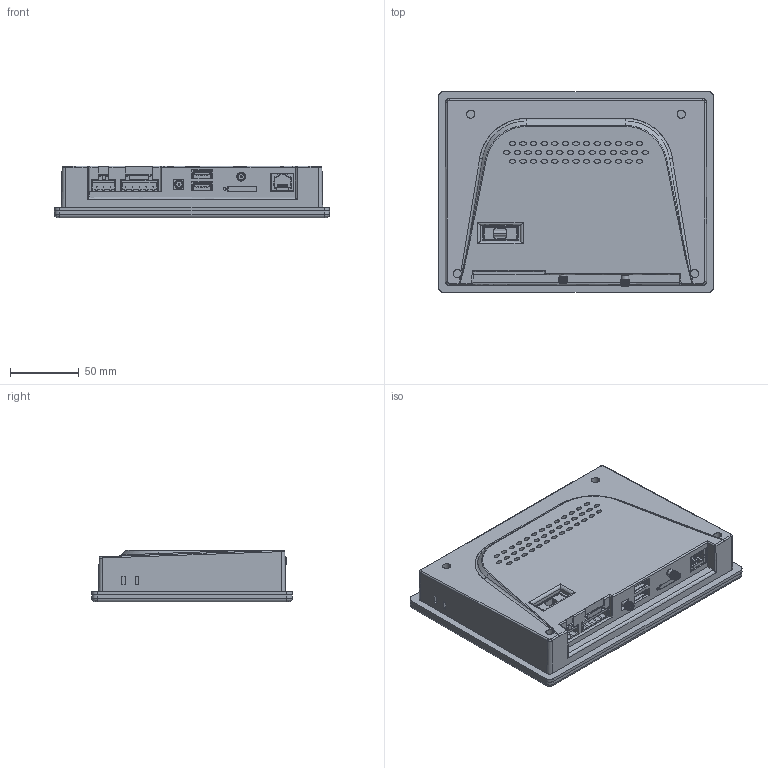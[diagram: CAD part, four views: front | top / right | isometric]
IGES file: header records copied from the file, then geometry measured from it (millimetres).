
Start section: SolidWorks IGES file using analytic representation for surfaces
Global section: file name: C:\Salvar\Planos Compartidos\Haiwell\C7S-EW.IGS; native system: SolidWorks 2021; preprocessor: SolidWorks 2021; author: osval; date: 220106.153914; units: millimetre
Bounding box: 200 x 146 x 37.51 mm (x, y, z)
Surface area: 140683 mm2 (no closed solid volume)
Topology: 0 solids, 0 shells, 2410 faces, 20500 edges, 20486 vertices
Faces by surface type: bspline 1771, revolution 639
